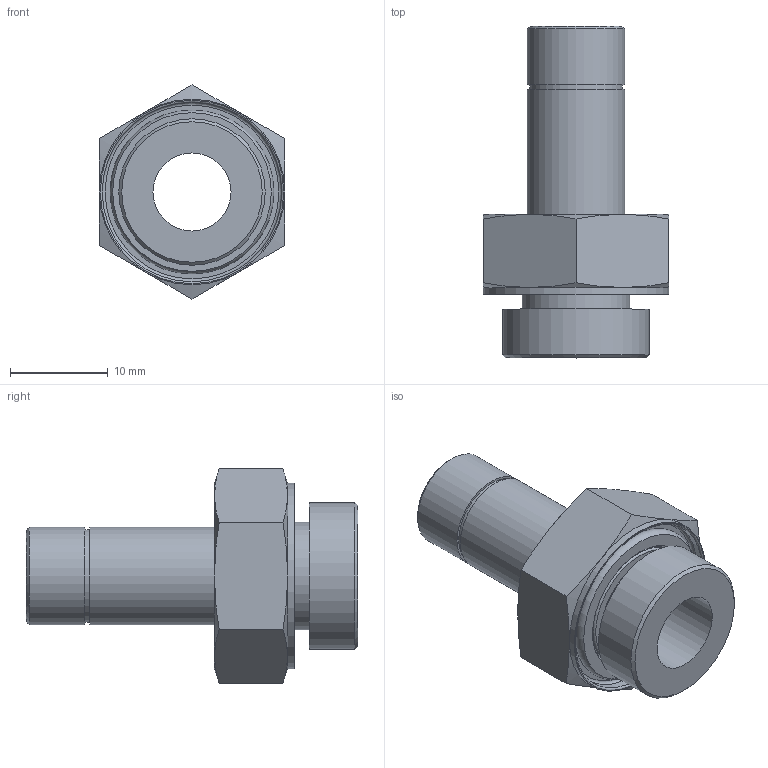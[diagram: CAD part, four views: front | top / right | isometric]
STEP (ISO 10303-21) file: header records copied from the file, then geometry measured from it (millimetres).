
FILE_DESCRIPTION(/* description */ (''),/* implementation_level */ '2;1');
FILE_NAME(/* name */ 'LXH16 0010 B3.stp',/* time_stamp */ '2026-04-29T15:02:31+02:00',/* author */ ('freju'),/* organization */ (''),/* preprocessor_version */ 'ST-DEVELOPER v20.1',/* originating_system */ 'Autodesk Inventor 2026',/* authorisation */ '');
FILE_SCHEMA (('AUTOMOTIVE_DESIGN { 1 0 10303 214 3 1 1 }'));
Length unit declared in the file: millimetre
Products named in the file (4): LXH16 0010 B3; LXH16 0010 B3_1; O-Ring; ISO 3601-1 - A 0132 G
Assembly tree (3 placements, depth 3):
  LXH16 0010 B3
    LXH16 0010 B3_1
    O-Ring
      ISO 3601-1 - A 0132 G
Bounding box: 19 x 34 x 21.94 mm (x, y, z)
Volume: 3294.7 mm3; surface area: 3312.6 mm2
Topology: 2 solids, 2 shells, 46 faces, 92 edges, 57 vertices
Faces by surface type: plane 17, cone 14, cylinder 9, torus 6
Full cylindrical faces by diameter (mm): 8 x1, 9.5 x1, 10 x2, 11 x1, 13.2 x1, 15 x1, 18.4 x1, 19 x1
Entity records: 1329 total; most frequent: CARTESIAN_POINT 250, DIRECTION 225, ORIENTED_EDGE 184, AXIS2_PLACEMENT_3D 104, EDGE_CURVE 92, EDGE_LOOP 57, VERTEX_POINT 57, CIRCLE 51
